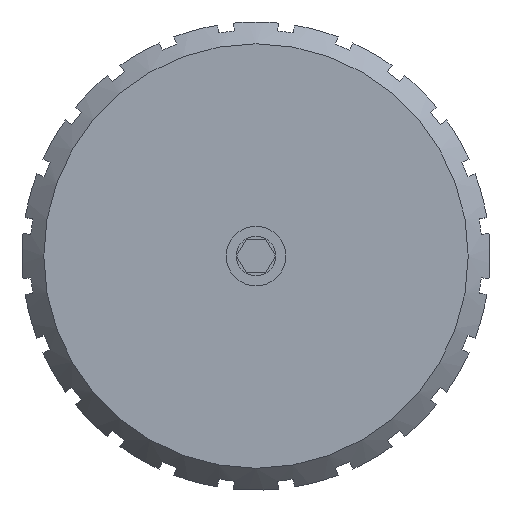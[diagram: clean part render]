
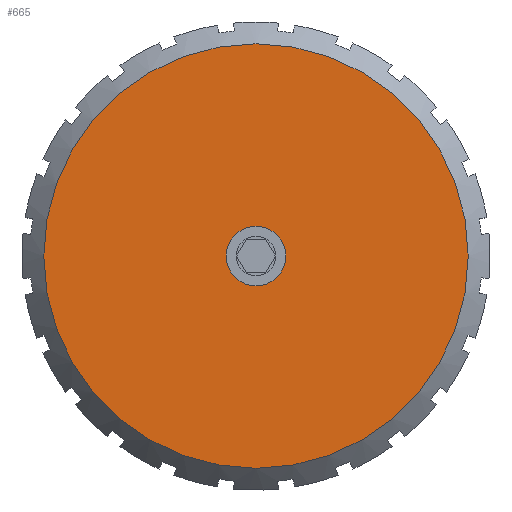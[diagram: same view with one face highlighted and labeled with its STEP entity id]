
A CAD part, left-side view. The second image highlights one B-rep face of the part: STEP entity #665.
In plain terms, the highlighted planar face has unit normal (-1, 0, 0).
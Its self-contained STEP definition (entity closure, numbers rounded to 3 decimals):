
#590 = CYLINDRICAL_SURFACE('',#591,1.5);
#591 = AXIS2_PLACEMENT_3D('',#592,#593,#594);
#592 = CARTESIAN_POINT('',(32.2,-27.9,8.595));
#593 = DIRECTION('',(1.,0.,0.));
#594 = DIRECTION('',(0.,0.,1.));
#616 = VERTEX_POINT('',#617);
#617 = CARTESIAN_POINT('',(35.62,-27.9,10.095));
#638 = EDGE_CURVE('',#616,#616,#639,.T.);
#639 = SURFACE_CURVE('',#640,(#645,#652),.PCURVE_S1.);
#640 = CIRCLE('',#641,1.5);
#641 = AXIS2_PLACEMENT_3D('',#642,#643,#644);
#642 = CARTESIAN_POINT('',(35.62,-27.9,8.595));
#643 = DIRECTION('',(1.,0.,-0.));
#644 = DIRECTION('',(0.,0.,1.));
#645 = PCURVE('',#590,#646);
#646 = DEFINITIONAL_REPRESENTATION('',(#647),#651);
#647 = LINE('',#648,#649);
#648 = CARTESIAN_POINT('',(0.,3.42));
#649 = VECTOR('',#650,1.);
#650 = DIRECTION('',(1.,0.));
#651 = ( GEOMETRIC_REPRESENTATION_CONTEXT(2) 
PARAMETRIC_REPRESENTATION_CONTEXT() REPRESENTATION_CONTEXT('2D SPACE',''
  ) );
#652 = PCURVE('',#653,#658);
#653 = PLANE('',#654);
#654 = AXIS2_PLACEMENT_3D('',#655,#656,#657);
#655 = CARTESIAN_POINT('',(35.62,-27.9,8.595));
#656 = DIRECTION('',(1.,0.,0.));
#657 = DIRECTION('',(0.,0.,1.));
#658 = DEFINITIONAL_REPRESENTATION('',(#659),#663);
#659 = CIRCLE('',#660,1.5);
#660 = AXIS2_PLACEMENT_2D('',#661,#662);
#661 = CARTESIAN_POINT('',(0.,0.));
#662 = DIRECTION('',(1.,-0.));
#663 = ( GEOMETRIC_REPRESENTATION_CONTEXT(2) 
PARAMETRIC_REPRESENTATION_CONTEXT() REPRESENTATION_CONTEXT('2D SPACE',''
  ) );
#665 = ADVANCED_FACE('',(#666,#669),#653,.F.);
#666 = FACE_BOUND('',#667,.T.);
#667 = EDGE_LOOP('',(#668));
#668 = ORIENTED_EDGE('',*,*,#638,.T.);
#669 = FACE_BOUND('',#670,.T.);
#670 = EDGE_LOOP('',(#671));
#671 = ORIENTED_EDGE('',*,*,#672,.F.);
#672 = EDGE_CURVE('',#673,#673,#675,.T.);
#673 = VERTEX_POINT('',#674);
#674 = CARTESIAN_POINT('',(35.62,-27.9,19.295));
#675 = SURFACE_CURVE('',#676,(#681,#688),.PCURVE_S1.);
#676 = CIRCLE('',#677,10.7);
#677 = AXIS2_PLACEMENT_3D('',#678,#679,#680);
#678 = CARTESIAN_POINT('',(35.62,-27.9,8.595));
#679 = DIRECTION('',(1.,0.,-0.));
#680 = DIRECTION('',(0.,0.,1.));
#681 = PCURVE('',#653,#682);
#682 = DEFINITIONAL_REPRESENTATION('',(#683),#687);
#683 = CIRCLE('',#684,10.7);
#684 = AXIS2_PLACEMENT_2D('',#685,#686);
#685 = CARTESIAN_POINT('',(0.,0.));
#686 = DIRECTION('',(1.,-0.));
#687 = ( GEOMETRIC_REPRESENTATION_CONTEXT(2) 
PARAMETRIC_REPRESENTATION_CONTEXT() REPRESENTATION_CONTEXT('2D SPACE',''
  ) );
#688 = PCURVE('',#689,#694);
#689 = CONICAL_SURFACE('',#690,10.7,0.742);
#690 = AXIS2_PLACEMENT_3D('',#691,#692,#693);
#691 = CARTESIAN_POINT('',(35.62,-27.9,8.595));
#692 = DIRECTION('',(1.,0.,0.));
#693 = DIRECTION('',(0.,0.,1.));
#694 = DEFINITIONAL_REPRESENTATION('',(#695),#699);
#695 = LINE('',#696,#697);
#696 = CARTESIAN_POINT('',(0.,0.));
#697 = VECTOR('',#698,1.);
#698 = DIRECTION('',(1.,0.));
#699 = ( GEOMETRIC_REPRESENTATION_CONTEXT(2) 
PARAMETRIC_REPRESENTATION_CONTEXT() REPRESENTATION_CONTEXT('2D SPACE',''
  ) );
